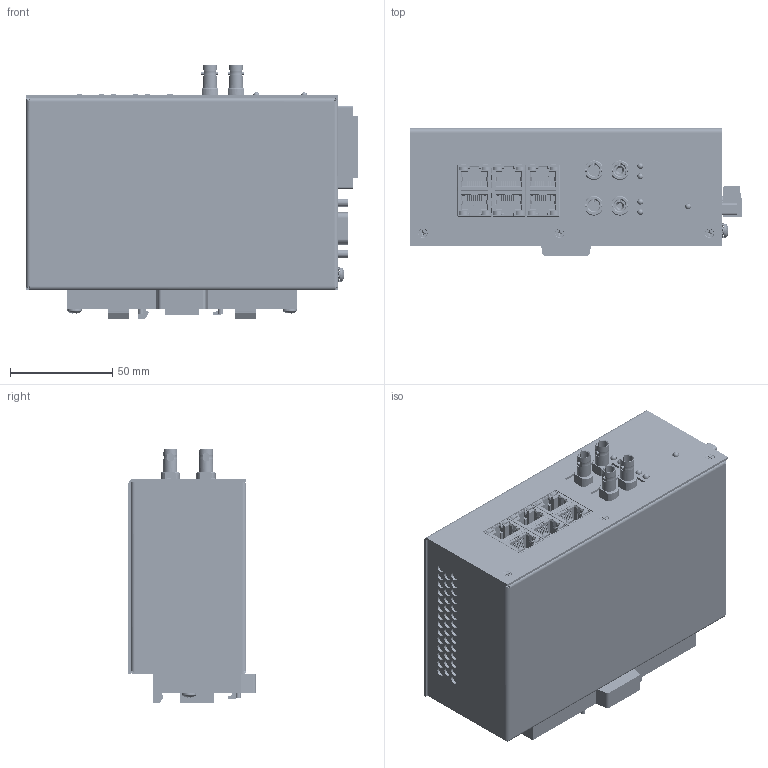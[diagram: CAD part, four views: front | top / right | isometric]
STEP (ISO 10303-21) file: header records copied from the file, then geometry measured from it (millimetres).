
FILE_DESCRIPTION (( 'STEP AP214' ), '1' );
FILE_NAME ('708FX2.STEP', '2023-02-09T16:18:35', ( '' ), ( '' ), 'SwSTEP 2.0', 'SolidWorks 2022', '' );
FILE_SCHEMA (( 'AUTOMOTIVE_DESIGN' ));
Length unit declared in the file: inch
Products named in the file (15): pxc_1778027_07_MSTB-2-5-6-STF-5-08_3D.stp; Fill Void; M-RJSAE-X38X-02-REVT1; NPMODRM4; 708FX2 - Top cover; 96640A023_Black-Oxide 18-8 Stainless Steel Phillips Flat Head Screws_96640A023; 708FX2ENC; LED; 90272A148_Zinc-Plated Steel Pan Head Phillips Screw_90272A148; Fiber_connector; 90402A144_Steel Pan Head Screws_90402A144; mstb_2.5-6-5.08.stp; 708FX2; pxc_1778027_07_MSTB-2-5-6-STF-5-08_3D; c-5747844-05-o-3d
Assembly tree (31 placements, depth 4):
  708FX2
    708FX2 - Top cover
    708FX2ENC
    96640A023_Black-Oxide 18-8 Stainless Steel Phillips Flat Head Screws_96640A023  x10
    90272A148_Zinc-Plated Steel Pan Head Phillips Screw_90272A148  x2
    90402A144_Steel Pan Head Screws_90402A144
    c-5747844-05-o-3d
    pxc_1778027_07_MSTB-2-5-6-STF-5-08_3D
      pxc_1778027_07_MSTB-2-5-6-STF-5-08_3D.stp
        mstb_2.5-6-5.08.stp
    NPMODRM4
    M-RJSAE-X38X-02-REVT1  x3
    Fill Void
    Fiber_connector  x2
    LED  x5
Bounding box: 162.02 x 62.18 x 123.91 mm (x, y, z)
Volume: 773404 mm3; surface area: 258953.7 mm2
Topology: 43 solids, 71 shells, 12342 faces, 35911 edges, 23699 vertices
Faces by surface type: plane 8309, cylinder 2724, bspline 888, cone 350, torus 56, sphere 15
Entity records: 204753 total; most frequent: CARTESIAN_POINT 55595, ORIENTED_EDGE 31571, DIRECTION 26757, EDGE_CURVE 15814, VECTOR 11101, LINE 11101, VERTEX_POINT 10717, AXIS2_PLACEMENT_3D 7828
